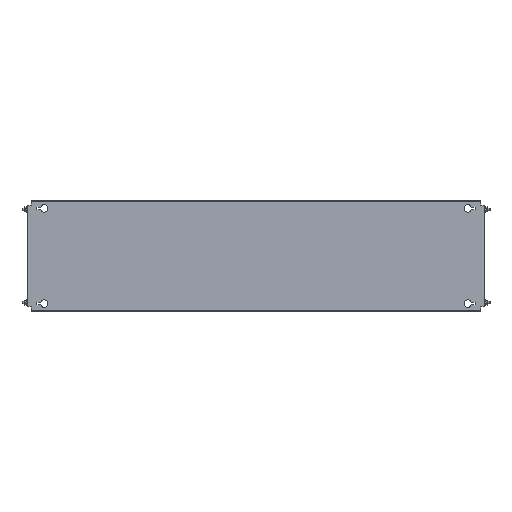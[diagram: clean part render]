
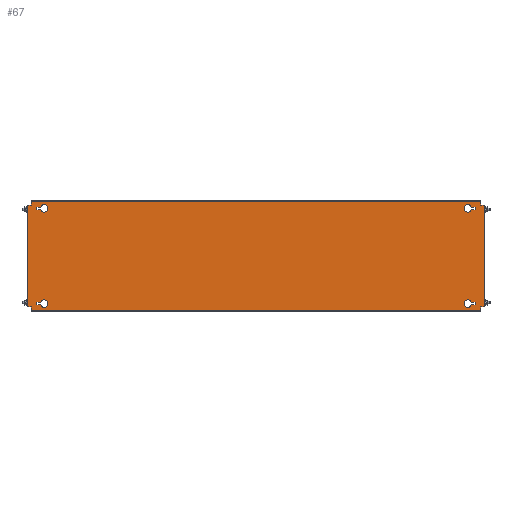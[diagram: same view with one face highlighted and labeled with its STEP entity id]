
A CAD part, top view. The second image highlights one B-rep face of the part: STEP entity #67.
In plain terms, the highlighted planar face has unit normal (0, 0, 1).
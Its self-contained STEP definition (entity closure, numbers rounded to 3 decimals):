
#67 = ADVANCED_FACE('',(#68,#103,#138,#300,#335),#370,.T.);
#68 = FACE_BOUND('',#69,.T.);
#69 = EDGE_LOOP('',(#70,#80,#88,#96));
#70 = ORIENTED_EDGE('',*,*,#71,.T.);
#71 = EDGE_CURVE('',#72,#74,#76,.T.);
#72 = VERTEX_POINT('',#73);
#73 = CARTESIAN_POINT('',(518.393,117.75,2.5));
#74 = VERTEX_POINT('',#75);
#75 = CARTESIAN_POINT('',(528.,117.75,2.5));
#76 = LINE('',#77,#78);
#77 = CARTESIAN_POINT('',(527.,117.75,2.5));
#78 = VECTOR('',#79,1.);
#79 = DIRECTION('',(1.,0.,0.));
#80 = ORIENTED_EDGE('',*,*,#81,.T.);
#81 = EDGE_CURVE('',#74,#82,#84,.T.);
#82 = VERTEX_POINT('',#83);
#83 = CARTESIAN_POINT('',(528.,111.25,2.5));
#84 = LINE('',#85,#86);
#85 = CARTESIAN_POINT('',(528.,117.75,2.5));
#86 = VECTOR('',#87,1.);
#87 = DIRECTION('',(0.,-1.,0.));
#88 = ORIENTED_EDGE('',*,*,#89,.T.);
#89 = EDGE_CURVE('',#82,#90,#92,.T.);
#90 = VERTEX_POINT('',#91);
#91 = CARTESIAN_POINT('',(518.393,111.25,2.5));
#92 = LINE('',#93,#94);
#93 = CARTESIAN_POINT('',(527.,111.25,2.5));
#94 = VECTOR('',#95,1.);
#95 = DIRECTION('',(-1.,0.,0.));
#96 = ORIENTED_EDGE('',*,*,#97,.T.);
#97 = EDGE_CURVE('',#90,#72,#98,.T.);
#98 = CIRCLE('',#99,9.);
#99 = AXIS2_PLACEMENT_3D('',#100,#101,#102);
#100 = CARTESIAN_POINT('',(510.,114.5,2.5));
#101 = DIRECTION('',(0.,0.,-1.));
#102 = DIRECTION('',(1.,0.,0.));
#103 = FACE_BOUND('',#104,.T.);
#104 = EDGE_LOOP('',(#105,#115,#123,#131));
#105 = ORIENTED_EDGE('',*,*,#106,.T.);
#106 = EDGE_CURVE('',#107,#109,#111,.T.);
#107 = VERTEX_POINT('',#108);
#108 = CARTESIAN_POINT('',(-518.393,-117.75,2.5));
#109 = VERTEX_POINT('',#110);
#110 = CARTESIAN_POINT('',(-528.,-117.75,2.5));
#111 = LINE('',#112,#113);
#112 = CARTESIAN_POINT('',(-527.,-117.75,2.5));
#113 = VECTOR('',#114,1.);
#114 = DIRECTION('',(-1.,0.,0.));
#115 = ORIENTED_EDGE('',*,*,#116,.T.);
#116 = EDGE_CURVE('',#109,#117,#119,.T.);
#117 = VERTEX_POINT('',#118);
#118 = CARTESIAN_POINT('',(-528.,-111.25,2.5));
#119 = LINE('',#120,#121);
#120 = CARTESIAN_POINT('',(-528.,-117.75,2.5));
#121 = VECTOR('',#122,1.);
#122 = DIRECTION('',(0.,1.,0.));
#123 = ORIENTED_EDGE('',*,*,#124,.T.);
#124 = EDGE_CURVE('',#117,#125,#127,.T.);
#125 = VERTEX_POINT('',#126);
#126 = CARTESIAN_POINT('',(-518.393,-111.25,2.5));
#127 = LINE('',#128,#129);
#128 = CARTESIAN_POINT('',(-527.,-111.25,2.5));
#129 = VECTOR('',#130,1.);
#130 = DIRECTION('',(1.,-0.,-0.));
#131 = ORIENTED_EDGE('',*,*,#132,.T.);
#132 = EDGE_CURVE('',#125,#107,#133,.T.);
#133 = CIRCLE('',#134,9.);
#134 = AXIS2_PLACEMENT_3D('',#135,#136,#137);
#135 = CARTESIAN_POINT('',(-510.,-114.5,2.5));
#136 = DIRECTION('',(0.,0.,-1.));
#137 = DIRECTION('',(-1.,0.,0.));
#138 = FACE_BOUND('',#139,.T.);
#139 = EDGE_LOOP('',(#140,#150,#158,#166,#174,#182,#190,#198,#206,#214,
    #222,#230,#238,#246,#254,#262,#270,#278,#286,#294));
#140 = ORIENTED_EDGE('',*,*,#141,.F.);
#141 = EDGE_CURVE('',#142,#144,#146,.T.);
#142 = VERTEX_POINT('',#143);
#143 = CARTESIAN_POINT('',(-546.9,122.5,2.5));
#144 = VERTEX_POINT('',#145);
#145 = CARTESIAN_POINT('',(-541.5,122.5,2.5));
#146 = LINE('',#147,#148);
#147 = CARTESIAN_POINT('',(-547.5,122.5,2.5));
#148 = VECTOR('',#149,1.);
#149 = DIRECTION('',(1.,0.,-0.));
#150 = ORIENTED_EDGE('',*,*,#151,.T.);
#151 = EDGE_CURVE('',#142,#152,#154,.T.);
#152 = VERTEX_POINT('',#153);
#153 = CARTESIAN_POINT('',(-550.,122.5,2.5));
#154 = LINE('',#155,#156);
#155 = CARTESIAN_POINT('',(-546.9,122.5,2.5));
#156 = VECTOR('',#157,1.);
#157 = DIRECTION('',(-1.,0.,0.));
#158 = ORIENTED_EDGE('',*,*,#159,.F.);
#159 = EDGE_CURVE('',#160,#152,#162,.T.);
#160 = VERTEX_POINT('',#161);
#161 = CARTESIAN_POINT('',(-550.,-122.5,2.5));
#162 = LINE('',#163,#164);
#163 = CARTESIAN_POINT('',(-550.,-132.,2.5));
#164 = VECTOR('',#165,1.);
#165 = DIRECTION('',(-0.,1.,-0.));
#166 = ORIENTED_EDGE('',*,*,#167,.F.);
#167 = EDGE_CURVE('',#168,#160,#170,.T.);
#168 = VERTEX_POINT('',#169);
#169 = CARTESIAN_POINT('',(-546.9,-122.5,2.5));
#170 = LINE('',#171,#172);
#171 = CARTESIAN_POINT('',(-541.5,-122.5,2.5));
#172 = VECTOR('',#173,1.);
#173 = DIRECTION('',(-1.,-0.,-0.));
#174 = ORIENTED_EDGE('',*,*,#175,.T.);
#175 = EDGE_CURVE('',#168,#176,#178,.T.);
#176 = VERTEX_POINT('',#177);
#177 = CARTESIAN_POINT('',(-541.5,-122.5,2.5));
#178 = LINE('',#179,#180);
#179 = CARTESIAN_POINT('',(-547.5,-122.5,2.5));
#180 = VECTOR('',#181,1.);
#181 = DIRECTION('',(1.,0.,-0.));
#182 = ORIENTED_EDGE('',*,*,#183,.T.);
#183 = EDGE_CURVE('',#176,#184,#186,.T.);
#184 = VERTEX_POINT('',#185);
#185 = CARTESIAN_POINT('',(-541.5,-131.4,2.5));
#186 = LINE('',#187,#188);
#187 = CARTESIAN_POINT('',(-541.5,132.,2.5));
#188 = VECTOR('',#189,1.);
#189 = DIRECTION('',(0.,-1.,0.));
#190 = ORIENTED_EDGE('',*,*,#191,.T.);
#191 = EDGE_CURVE('',#184,#192,#194,.T.);
#192 = VERTEX_POINT('',#193);
#193 = CARTESIAN_POINT('',(-541.5,-132.,2.5));
#194 = LINE('',#195,#196);
#195 = CARTESIAN_POINT('',(-541.5,-131.4,2.5));
#196 = VECTOR('',#197,1.);
#197 = DIRECTION('',(-0.,-1.,-0.));
#198 = ORIENTED_EDGE('',*,*,#199,.T.);
#199 = EDGE_CURVE('',#192,#200,#202,.T.);
#200 = VERTEX_POINT('',#201);
#201 = CARTESIAN_POINT('',(541.5,-132.,2.5));
#202 = LINE('',#203,#204);
#203 = CARTESIAN_POINT('',(541.5,-132.,2.5));
#204 = VECTOR('',#205,1.);
#205 = DIRECTION('',(1.,0.,0.));
#206 = ORIENTED_EDGE('',*,*,#207,.F.);
#207 = EDGE_CURVE('',#208,#200,#210,.T.);
#208 = VERTEX_POINT('',#209);
#209 = CARTESIAN_POINT('',(541.5,-131.4,2.5));
#210 = LINE('',#211,#212);
#211 = CARTESIAN_POINT('',(541.5,-132.,2.5));
#212 = VECTOR('',#213,1.);
#213 = DIRECTION('',(0.,-1.,0.));
#214 = ORIENTED_EDGE('',*,*,#215,.T.);
#215 = EDGE_CURVE('',#208,#216,#218,.T.);
#216 = VERTEX_POINT('',#217);
#217 = CARTESIAN_POINT('',(541.5,-122.5,2.5));
#218 = LINE('',#219,#220);
#219 = CARTESIAN_POINT('',(541.5,132.,2.5));
#220 = VECTOR('',#221,1.);
#221 = DIRECTION('',(-0.,1.,-0.));
#222 = ORIENTED_EDGE('',*,*,#223,.F.);
#223 = EDGE_CURVE('',#224,#216,#226,.T.);
#224 = VERTEX_POINT('',#225);
#225 = CARTESIAN_POINT('',(546.9,-122.5,2.5));
#226 = LINE('',#227,#228);
#227 = CARTESIAN_POINT('',(547.5,-122.5,2.5));
#228 = VECTOR('',#229,1.);
#229 = DIRECTION('',(-1.,0.,-0.));
#230 = ORIENTED_EDGE('',*,*,#231,.T.);
#231 = EDGE_CURVE('',#224,#232,#234,.T.);
#232 = VERTEX_POINT('',#233);
#233 = CARTESIAN_POINT('',(550.,-122.5,2.5));
#234 = LINE('',#235,#236);
#235 = CARTESIAN_POINT('',(546.9,-122.5,2.5));
#236 = VECTOR('',#237,1.);
#237 = DIRECTION('',(1.,-0.,0.));
#238 = ORIENTED_EDGE('',*,*,#239,.F.);
#239 = EDGE_CURVE('',#240,#232,#242,.T.);
#240 = VERTEX_POINT('',#241);
#241 = CARTESIAN_POINT('',(550.,122.5,2.5));
#242 = LINE('',#243,#244);
#243 = CARTESIAN_POINT('',(550.,-132.,2.5));
#244 = VECTOR('',#245,1.);
#245 = DIRECTION('',(-0.,-1.,0.));
#246 = ORIENTED_EDGE('',*,*,#247,.F.);
#247 = EDGE_CURVE('',#248,#240,#250,.T.);
#248 = VERTEX_POINT('',#249);
#249 = CARTESIAN_POINT('',(546.9,122.5,2.5));
#250 = LINE('',#251,#252);
#251 = CARTESIAN_POINT('',(-541.5,122.5,2.5));
#252 = VECTOR('',#253,1.);
#253 = DIRECTION('',(1.,-0.,0.));
#254 = ORIENTED_EDGE('',*,*,#255,.T.);
#255 = EDGE_CURVE('',#248,#256,#258,.T.);
#256 = VERTEX_POINT('',#257);
#257 = CARTESIAN_POINT('',(541.5,122.5,2.5));
#258 = LINE('',#259,#260);
#259 = CARTESIAN_POINT('',(547.5,122.5,2.5));
#260 = VECTOR('',#261,1.);
#261 = DIRECTION('',(-1.,0.,-0.));
#262 = ORIENTED_EDGE('',*,*,#263,.T.);
#263 = EDGE_CURVE('',#256,#264,#266,.T.);
#264 = VERTEX_POINT('',#265);
#265 = CARTESIAN_POINT('',(541.5,131.4,2.5));
#266 = LINE('',#267,#268);
#267 = CARTESIAN_POINT('',(541.5,132.,2.5));
#268 = VECTOR('',#269,1.);
#269 = DIRECTION('',(-0.,1.,-0.));
#270 = ORIENTED_EDGE('',*,*,#271,.T.);
#271 = EDGE_CURVE('',#264,#272,#274,.T.);
#272 = VERTEX_POINT('',#273);
#273 = CARTESIAN_POINT('',(541.5,132.,2.5));
#274 = LINE('',#275,#276);
#275 = CARTESIAN_POINT('',(541.5,131.4,2.5));
#276 = VECTOR('',#277,1.);
#277 = DIRECTION('',(-0.,1.,-0.));
#278 = ORIENTED_EDGE('',*,*,#279,.T.);
#279 = EDGE_CURVE('',#272,#280,#282,.T.);
#280 = VERTEX_POINT('',#281);
#281 = CARTESIAN_POINT('',(-541.5,132.,2.5));
#282 = LINE('',#283,#284);
#283 = CARTESIAN_POINT('',(-541.5,132.,2.5));
#284 = VECTOR('',#285,1.);
#285 = DIRECTION('',(-1.,0.,0.));
#286 = ORIENTED_EDGE('',*,*,#287,.F.);
#287 = EDGE_CURVE('',#288,#280,#290,.T.);
#288 = VERTEX_POINT('',#289);
#289 = CARTESIAN_POINT('',(-541.5,131.4,2.5));
#290 = LINE('',#291,#292);
#291 = CARTESIAN_POINT('',(-541.5,-132.,2.5));
#292 = VECTOR('',#293,1.);
#293 = DIRECTION('',(0.,1.,-0.));
#294 = ORIENTED_EDGE('',*,*,#295,.T.);
#295 = EDGE_CURVE('',#288,#144,#296,.T.);
#296 = LINE('',#297,#298);
#297 = CARTESIAN_POINT('',(-541.5,132.,2.5));
#298 = VECTOR('',#299,1.);
#299 = DIRECTION('',(0.,-1.,0.));
#300 = FACE_BOUND('',#301,.T.);
#301 = EDGE_LOOP('',(#302,#312,#320,#328));
#302 = ORIENTED_EDGE('',*,*,#303,.F.);
#303 = EDGE_CURVE('',#304,#306,#308,.T.);
#304 = VERTEX_POINT('',#305);
#305 = CARTESIAN_POINT('',(528.,-111.25,2.5));
#306 = VERTEX_POINT('',#307);
#307 = CARTESIAN_POINT('',(518.393,-111.25,2.5));
#308 = LINE('',#309,#310);
#309 = CARTESIAN_POINT('',(518.393,-111.25,2.5));
#310 = VECTOR('',#311,1.);
#311 = DIRECTION('',(-1.,0.,0.));
#312 = ORIENTED_EDGE('',*,*,#313,.F.);
#313 = EDGE_CURVE('',#314,#304,#316,.T.);
#314 = VERTEX_POINT('',#315);
#315 = CARTESIAN_POINT('',(528.,-117.75,2.5));
#316 = LINE('',#317,#318);
#317 = CARTESIAN_POINT('',(528.,-111.25,2.5));
#318 = VECTOR('',#319,1.);
#319 = DIRECTION('',(0.,1.,0.));
#320 = ORIENTED_EDGE('',*,*,#321,.F.);
#321 = EDGE_CURVE('',#322,#314,#324,.T.);
#322 = VERTEX_POINT('',#323);
#323 = CARTESIAN_POINT('',(518.393,-117.75,2.5));
#324 = LINE('',#325,#326);
#325 = CARTESIAN_POINT('',(527.,-117.75,2.5));
#326 = VECTOR('',#327,1.);
#327 = DIRECTION('',(1.,0.,0.));
#328 = ORIENTED_EDGE('',*,*,#329,.F.);
#329 = EDGE_CURVE('',#306,#322,#330,.T.);
#330 = CIRCLE('',#331,9.);
#331 = AXIS2_PLACEMENT_3D('',#332,#333,#334);
#332 = CARTESIAN_POINT('',(510.,-114.5,2.5));
#333 = DIRECTION('',(0.,-0.,1.));
#334 = DIRECTION('',(1.,0.,0.));
#335 = FACE_BOUND('',#336,.T.);
#336 = EDGE_LOOP('',(#337,#347,#355,#363));
#337 = ORIENTED_EDGE('',*,*,#338,.F.);
#338 = EDGE_CURVE('',#339,#341,#343,.T.);
#339 = VERTEX_POINT('',#340);
#340 = CARTESIAN_POINT('',(-528.,111.25,2.5));
#341 = VERTEX_POINT('',#342);
#342 = CARTESIAN_POINT('',(-518.393,111.25,2.5));
#343 = LINE('',#344,#345);
#344 = CARTESIAN_POINT('',(-518.393,111.25,2.5));
#345 = VECTOR('',#346,1.);
#346 = DIRECTION('',(1.,0.,0.));
#347 = ORIENTED_EDGE('',*,*,#348,.F.);
#348 = EDGE_CURVE('',#349,#339,#351,.T.);
#349 = VERTEX_POINT('',#350);
#350 = CARTESIAN_POINT('',(-528.,117.75,2.5));
#351 = LINE('',#352,#353);
#352 = CARTESIAN_POINT('',(-528.,111.25,2.5));
#353 = VECTOR('',#354,1.);
#354 = DIRECTION('',(0.,-1.,0.));
#355 = ORIENTED_EDGE('',*,*,#356,.F.);
#356 = EDGE_CURVE('',#357,#349,#359,.T.);
#357 = VERTEX_POINT('',#358);
#358 = CARTESIAN_POINT('',(-518.393,117.75,2.5));
#359 = LINE('',#360,#361);
#360 = CARTESIAN_POINT('',(-527.,117.75,2.5));
#361 = VECTOR('',#362,1.);
#362 = DIRECTION('',(-1.,0.,0.));
#363 = ORIENTED_EDGE('',*,*,#364,.F.);
#364 = EDGE_CURVE('',#341,#357,#365,.T.);
#365 = CIRCLE('',#366,9.);
#366 = AXIS2_PLACEMENT_3D('',#367,#368,#369);
#367 = CARTESIAN_POINT('',(-510.,114.5,2.5));
#368 = DIRECTION('',(0.,-0.,1.));
#369 = DIRECTION('',(-1.,0.,0.));
#370 = PLANE('',#371);
#371 = AXIS2_PLACEMENT_3D('',#372,#373,#374);
#372 = CARTESIAN_POINT('',(-541.5,-132.,2.5));
#373 = DIRECTION('',(-0.,0.,1.));
#374 = DIRECTION('',(1.,0.,0.));
